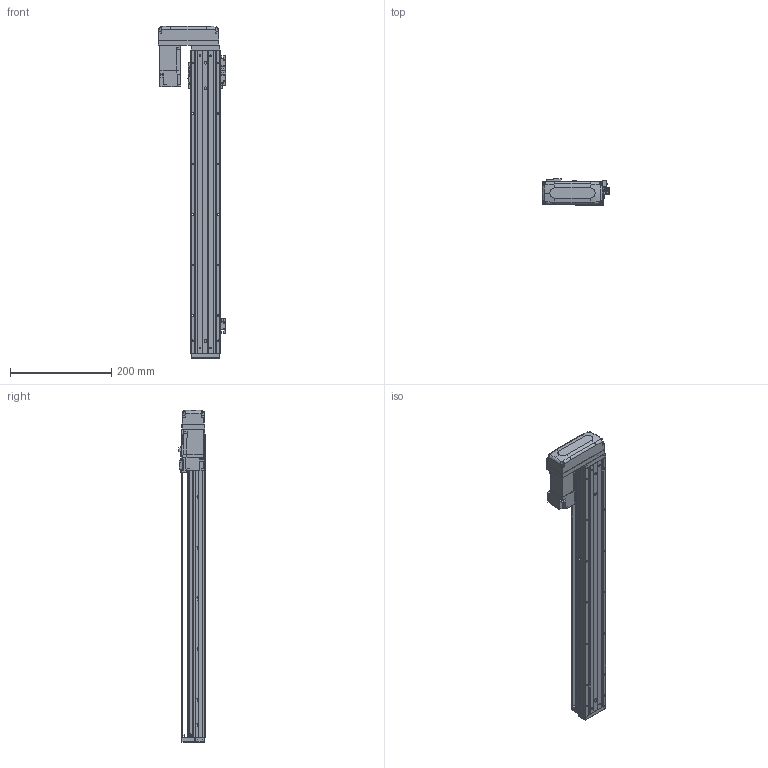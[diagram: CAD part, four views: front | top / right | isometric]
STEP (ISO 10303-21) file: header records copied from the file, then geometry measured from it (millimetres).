
FILE_DESCRIPTION (( 'STEP AP203' ), '1' );
FILE_NAME ('KTHA50-500-BR-M10-C4L.step', '2022-03-19T07:15:55', ( '微软用户' ), ( '微软中国' ), 'SwSTEP 2.0', 'SolidWorks 2020', '' );
FILE_SCHEMA (( 'CONFIG_CONTROL_DESIGN' ));
Length unit declared in the file: millimetre
Products named in the file (18): CTHA60-017; CTHA60-033; GBT 70.1-M4×12; GBT 70.1-M3×15; CTHA60-016; KTHA50-500-BR-M10-C4L; KTHA50-001_600; GB¨uT 70.2-M3¡Á6_M3¡Á6; CTHA60-021; KTHA50-002; EE_SX911P_R; GBT 70.3-M3℅6; KTHA50-004; GBT77-2000 M3×3; HG-KR13（三菱）; KTHA50-005; GBT 70.1-M3℅6; CTHA50-015-2_CTHA60-015-2
Assembly tree (53 placements, depth 2):
  KTHA50-500-BR-M10-C4L
    KTHA50-001_600
    KTHA50-002
    KTHA50-004
    KTHA50-005
    GB¨uT 70.2-M3¡Á6_M3¡Á6  x6
    EE_SX911P_R  x3
    GBT77-2000 M3×3  x6
    GBT 70.1-M3℅6  x6
    CTHA60-017  x3
    GBT 70.1-M4×12  x10
    CTHA60-016  x2
    CTHA60-021  x2
    GBT 70.3-M3℅6  x4
    HG-KR13（三菱）
    CTHA50-015-2_CTHA60-015-2
    CTHA60-033
    GBT 70.1-M3×15  x4
Bounding box: 133.82 x 52.3 x 657 mm (x, y, z)
Volume: 1343350.8 mm3; surface area: 329405.7 mm2
Topology: 56 solids, 56 shells, 2283 faces, 5407 edges, 3316 vertices
Faces by surface type: plane 1276, cylinder 556, cone 309, torus 100, bspline 26, sphere 16
Entity records: 38881 total; most frequent: CARTESIAN_POINT 7346, DIRECTION 6075, ORIENTED_EDGE 5826, EDGE_CURVE 2913, AXIS2_PLACEMENT_3D 2061, VECTOR 1953, LINE 1953, VERTEX_POINT 1830
